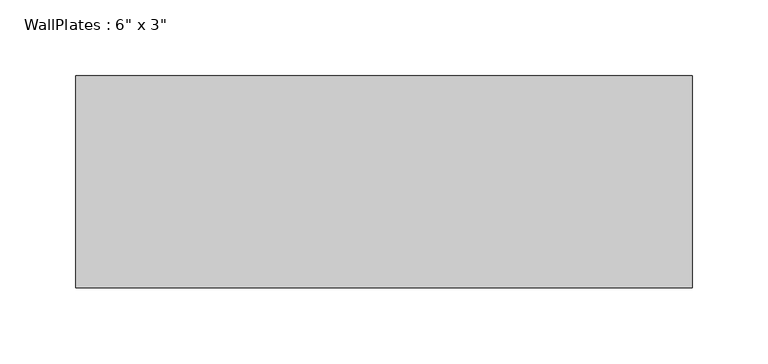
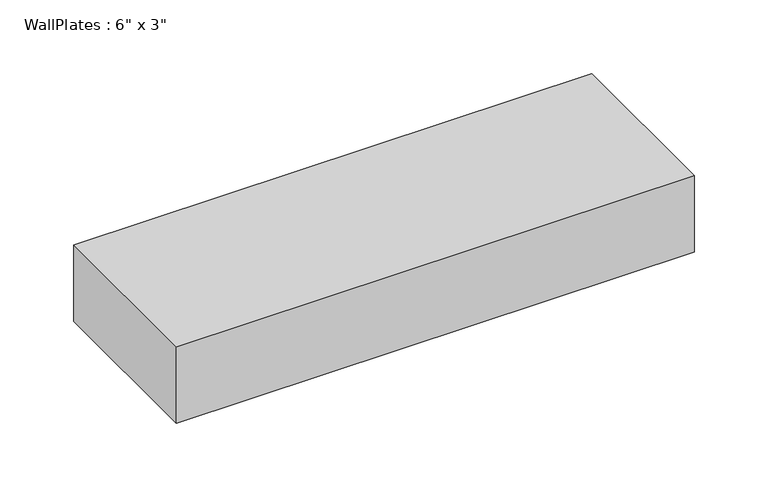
"""IFC4 building model written with IfcOpenShell, lengths in millimetres: beam geometry."""

import ifcopenshell
import ifcopenshell.guid

model = None  # the IFC model being written
_history = None  # IfcOwnerHistory: only IFC2X3 demands one
_inside = {}  # id of a spatial element -> (the spatial element, [elements in it])
_under = {}  # id of a project, library or spatial element -> (it, [spatial elements below it])
_declared = {}  # id of a project -> (the project, [libraries it declares])
_typed = {}  # id of a type object -> (the type object, [elements of that type])
_made_of = {}  # id of a material, layer set ... -> (it, [elements and type objects made of it])


def new_model(schema):
    """Start an empty IFC model of exactly this schema.

    Asked for "IFC4X3", IfcOpenShell would pick the latest addendum, in which some entities
    have other attributes; the version numbers below select the first issue.
    IFC2X3 requires an IfcOwnerHistory on every rooted entity: one is made here for all.
    """
    global model, _history
    if schema == "IFC4X3":
        model = ifcopenshell.file(schema_version=(4, 3, 0, 0))
    else:
        model = ifcopenshell.file(schema=schema)
    _inside.clear()
    _under.clear()
    _declared.clear()
    _typed.clear()
    _made_of.clear()
    _history = None
    if model.schema == "IFC2X3":
        org = make("IfcOrganization", Name="unknown")
        user = make(
            "IfcPersonAndOrganization",
            ThePerson=make("IfcPerson", FamilyName="unknown"),
            TheOrganization=org,
        )
        app = make(
            "IfcApplication",
            ApplicationDeveloper=org,
            Version="unknown",
            ApplicationFullName="unknown",
            ApplicationIdentifier="unknown",
        )
        _history = make(
            "IfcOwnerHistory",
            OwningUser=user,
            OwningApplication=app,
            ChangeAction="ADDED",
            CreationDate=0,
        )
    return model


def make(cls, **values):
    """One entity of the class cls with the attributes given. An attribute that is None is left unset."""
    return model.create_entity(
        cls, **{name: value for name, value in values.items() if value is not None}
    )


def rooted(cls, **values):
    """An entity with a GlobalId (a new one), such as an element, a storey or a relation."""
    return make(cls, GlobalId=ifcopenshell.guid.new(), OwnerHistory=_history, **values)


def si_unit(unit_type, name, prefix=None):
    """IfcSIUnit, for example si_unit("LENGTHUNIT", "METRE", prefix="MILLI")."""
    return make("IfcSIUnit", UnitType=unit_type, Prefix=prefix, Name=name)


def assignment(units):
    """IfcUnitAssignment: the units of a project."""
    return None if units is None else make("IfcUnitAssignment", Units=units)


def point(xyz):
    """IfcCartesianPoint."""
    return None if xyz is None else make("IfcCartesianPoint", Coordinates=xyz)


def direction(xyz):
    """IfcDirection."""
    return None if xyz is None else make("IfcDirection", DirectionRatios=xyz)


def frame(location, z_axis=None, x_axis=None):
    """IfcAxis2Placement3D, a coordinate frame: its origin and axes. An axis left out is left unset."""
    return make(
        "IfcAxis2Placement3D",
        Location=point(location),
        Axis=direction(z_axis),
        RefDirection=direction(x_axis),
    )


def origin():
    """The frame at (0, 0, 0) with its axes left unset."""
    return frame((0.0, 0.0, 0.0))


def place(relative_to, where):
    """IfcLocalPlacement: puts the frame where relative to a parent placement (None: the world)."""
    return make(
        "IfcLocalPlacement", PlacementRelTo=relative_to, RelativePlacement=where
    )


def context(
    kind, dimensions, precision=None, world=None, true_north=None, identifier=None
):
    """IfcGeometricRepresentationContext, for example the 3D "Model" context."""
    return make(
        "IfcGeometricRepresentationContext",
        ContextIdentifier=identifier,
        ContextType=kind,
        CoordinateSpaceDimension=dimensions,
        Precision=precision,
        WorldCoordinateSystem=world,
        TrueNorth=true_north,
    )


def project(units=None, contexts=None):
    """IfcProject with its units and contexts."""
    return rooted(
        "IfcProject",
        Name="project",
        RepresentationContexts=contexts,
        UnitsInContext=assignment(units),
    )


def spatial(cls, under=None, at=None, **own):
    """A site, building, storey or space (cls), placed at a placement, below another one or the project."""
    s = rooted(cls, ObjectPlacement=at, **own)
    if under is not None:
        _under.setdefault(under.id(), (under, []))[1].append(s)
    return s


def polyline(points):
    """IfcPolyline through the points."""
    return make("IfcPolyline", Points=[point(p) for p in points])


def outline(outer, holes=None, kind="AREA"):
    """IfcArbitraryClosedProfileDef: a profile drawn as a closed curve; with holes, ...WithVoids."""
    if holes is None:
        return make("IfcArbitraryClosedProfileDef", ProfileType=kind, OuterCurve=outer)
    return make(
        "IfcArbitraryProfileDefWithVoids",
        ProfileType=kind,
        OuterCurve=outer,
        InnerCurves=holes,
    )


def extrude(swept, where, along, depth):
    """IfcExtrudedAreaSolid: the profile swept, set in the frame where, extruded along a direction by depth."""
    return make(
        "IfcExtrudedAreaSolid",
        SweptArea=swept,
        Position=where,
        ExtrudedDirection=direction(along),
        Depth=depth,
    )


def shape(context_of_items, identifier, shape_type, items):
    """IfcShapeRepresentation: the items that make up one representation, for example the "Body"."""
    return make(
        "IfcShapeRepresentation",
        ContextOfItems=context_of_items,
        RepresentationIdentifier=identifier,
        RepresentationType=shape_type,
        Items=items,
    )


def source(mapping_origin, context_of_items, identifier, shape_type, items):
    """IfcRepresentationMap: a shape defined once, which mapped items show again and again."""
    return make(
        "IfcRepresentationMap",
        MappingOrigin=mapping_origin,
        MappedRepresentation=shape(context_of_items, identifier, shape_type, items),
    )


def transform(
    local_origin,
    x_axis=None,
    y_axis=None,
    z_axis=None,
    scale=None,
    scale2=None,
    scale3=None,
    uniform=True,
):
    """IfcCartesianTransformationOperator3D, or its non-uniform kind. x_axis, y_axis, z_axis: its Axis1, 2, 3."""
    if uniform:
        return make(
            "IfcCartesianTransformationOperator3D",
            Axis1=direction(x_axis),
            Axis2=direction(y_axis),
            LocalOrigin=point(local_origin),
            Scale=scale,
            Axis3=direction(z_axis),
        )
    return make(
        "IfcCartesianTransformationOperator3DnonUniform",
        Axis1=direction(x_axis),
        Axis2=direction(y_axis),
        LocalOrigin=point(local_origin),
        Scale=scale,
        Axis3=direction(z_axis),
        Scale2=scale2,
        Scale3=scale3,
    )


def mapped(mapping_source, mapping_target):
    """IfcMappedItem: shows the shape of a source again, moved by a transform."""
    return make(
        "IfcMappedItem", MappingSource=mapping_source, MappingTarget=mapping_target
    )


def made_of(thing, what):
    """Note that an element or type object is made of a material, layer set ...; save() writes the relation."""
    if what is not None:
        _made_of.setdefault(what.id(), (what, []))[1].append(thing)
    return thing


def element(
    cls,
    number,
    at=None,
    inside=None,
    cuts=None,
    type_object=None,
    material=None,
    context=None,
    identifier="Body",
    shape_type=None,
    held_by="IfcProductDefinitionShape",
    body=None,
    shapes=None,
    **own,
):
    """One element of the class cls, such as IfcWall. Its Tag is "e" and its number.

    at: its placement. inside: the storey or other place that contains it. cuts: it is an
    opening in that element (IfcRelVoidsElement). A single representation is given by context,
    identifier, shape_type and body (its items); several are given by shapes. held_by: the class
    of the entity that holds the representations. save() writes the other relations.
    """
    e = rooted(cls, Tag="e%d" % number, ObjectPlacement=at, **own)
    if body is not None:
        shapes = [shape(context, identifier, shape_type, body)]
    if shapes is not None:
        e.Representation = make(held_by, Representations=shapes)
    if inside is not None:
        _inside.setdefault(inside.id(), (inside, []))[1].append(e)
    if cuts is not None:
        rooted(
            "IfcRelVoidsElement", RelatingBuildingElement=cuts, RelatedOpeningElement=e
        )
    if type_object is not None:
        _typed.setdefault(type_object.id(), (type_object, []))[1].append(e)
    return made_of(e, material)


def aggregate(whole, parts):
    """IfcRelAggregates: a whole, such as a stair, and the parts it consists of."""
    return rooted("IfcRelAggregates", RelatingObject=whole, RelatedObjects=parts)


def save(model, path):
    """Write the relations noted so far, then the file.

    IfcRelAggregates (storeys below a building ...), IfcRelContainedInSpatialStructure (elements
    in a storey), IfcRelDefinesByType, IfcRelAssociatesMaterial and IfcRelDeclares: one each for
    every whole, place, type object, material and project.
    """
    for whole, parts in _under.values():
        aggregate(whole, parts)
    for where, things in _inside.values():
        rooted(
            "IfcRelContainedInSpatialStructure",
            RelatedElements=things,
            RelatingStructure=where,
        )
    for kind, things in _typed.values():
        rooted("IfcRelDefinesByType", RelatedObjects=things, RelatingType=kind)
    for what, things in _made_of.values():
        rooted("IfcRelAssociatesMaterial", RelatedObjects=things, RelatingMaterial=what)
    for by, libraries in _declared.values():
        rooted("IfcRelDeclares", RelatingContext=by, RelatedDefinitions=libraries)
    model.write(path)


def beam_7e40e194(model_context):
    return source(origin(), model_context, "Body", "SweptSolid", [
        extrude(outline(polyline([(-203.2, -69.85), (-203.2, 69.85), (203.2, 69.85), (203.2, -69.85), (-203.2, -69.85)])), frame((0.0, 0.0, -31.75), z_axis=(0.0, 0.0, 1.0), x_axis=(1.0, 0.0, 0.0)), (0.0, 0.0, 1.0), 63.5),
    ])


if __name__ == "__main__":
    model = new_model("IFC4")
    model_context = context("Model", 3, world=origin())
    ifc_project = project(units=[si_unit("LENGTHUNIT", "METRE", prefix="MILLI")], contexts=[model_context])
    site = spatial("IfcSite", under=ifc_project)
    building = spatial("IfcBuilding", under=site)
    placement = place(None, origin())
    beam_shape = beam_7e40e194(model_context)
    element("IfcBeam", 1, ObjectType="WallPlates : 6\" x 3\"", at=placement, inside=building, context=model_context, shape_type="MappedRepresentation", body=[
        mapped(beam_shape, transform((0.0, 0.0, 0.0), x_axis=(1.0, 0.0, 0.0), y_axis=(0.0, 1.0, 0.0), z_axis=(0.0, 0.0, 1.0))),
    ])
    save(model, "model.ifc")
